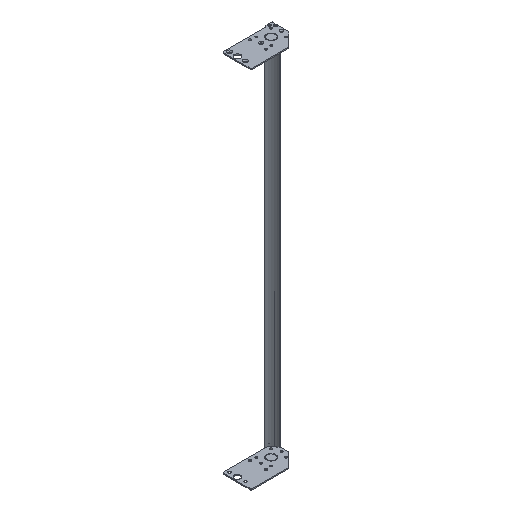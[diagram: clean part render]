
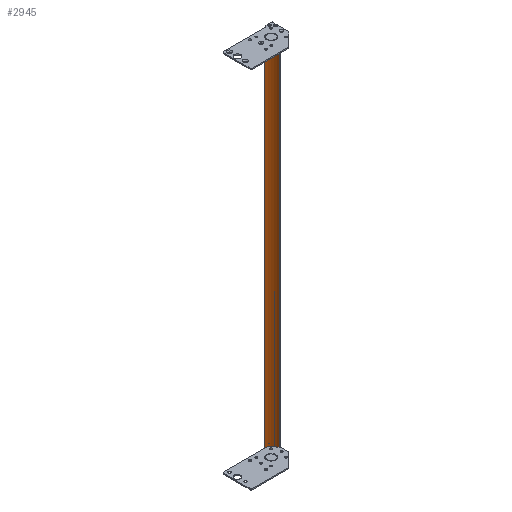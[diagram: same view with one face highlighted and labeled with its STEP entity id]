
A CAD part, isometric view. The second image highlights one B-rep face of the part: STEP entity #2945.
In plain terms, the highlighted cylindrical face has radius 40.64 mm (diameter 81.28 mm), a partial arc.
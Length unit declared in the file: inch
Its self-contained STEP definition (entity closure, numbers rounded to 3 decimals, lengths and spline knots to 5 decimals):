
#2603=CARTESIAN_POINT('',(-1.63,-1.52,-22.118));
#2604=DIRECTION('',(0.,0.,1.));
#2605=DIRECTION('',(0.946,0.325,0.));
#2606=AXIS2_PLACEMENT_3D('',#2603,#2604,#2605);
#2654=DIRECTION('',(0.,0.,1.));
#2655=VECTOR('',#2654,44.236);
#2656=CARTESIAN_POINT('',(-0.98126,-0.05742,-22.118));
#2657=LINE('',#2656,#2655);
#2673=CARTESIAN_POINT('',(-1.63,-1.52,22.118));
#2674=DIRECTION('',(0.,0.,-1.));
#2675=DIRECTION('',(0.405,0.914,0.));
#2676=AXIS2_PLACEMENT_3D('',#2673,#2674,#2675);
#2723=DIRECTION('',(0.,0.,1.));
#2724=VECTOR('',#2723,44.236);
#2725=CARTESIAN_POINT('',(-0.11675,-1.00032,-22.118));
#2726=LINE('',#2725,#2724);
#2755=CARTESIAN_POINT('',(-0.11675,-1.00032,-22.118));
#2756=CARTESIAN_POINT('',(-0.11675,-1.00032,22.118));
#2757=VERTEX_POINT('',#2755);
#2758=VERTEX_POINT('',#2756);
#2759=CARTESIAN_POINT('',(-0.98126,-0.05742,-22.118));
#2760=VERTEX_POINT('',#2759);
#2773=CARTESIAN_POINT('',(-0.98126,-0.05742,22.118));
#2774=VERTEX_POINT('',#2773);
#2934=CARTESIAN_POINT('',(-1.63,-1.52,22.118));
#2935=DIRECTION('',(0.,0.,-1.));
#2936=DIRECTION('',(-1.,0.,0.));
#2937=AXIS2_PLACEMENT_3D('',#2934,#2935,#2936);
#2938=CYLINDRICAL_SURFACE('',#2937,1.6);
#2939=ORIENTED_EDGE('',*,*,#2796,.T.);
#2940=ORIENTED_EDGE('',*,*,#2843,.T.);
#2941=ORIENTED_EDGE('',*,*,#2864,.T.);
#2942=ORIENTED_EDGE('',*,*,#2927,.F.);
#2943=EDGE_LOOP('',(#2939,#2940,#2941,#2942));
#2944=FACE_OUTER_BOUND('',#2943,.F.);
#2607=CIRCLE('',#2606,1.6);
#2677=CIRCLE('',#2676,1.6);
#2796=EDGE_CURVE('',#2757,#2760,#2607,.T.);
#2843=EDGE_CURVE('',#2760,#2774,#2657,.T.);
#2864=EDGE_CURVE('',#2774,#2758,#2677,.T.);
#2927=EDGE_CURVE('',#2757,#2758,#2726,.T.);
#2945=ADVANCED_FACE('',(#2944),#2938,.F.);
